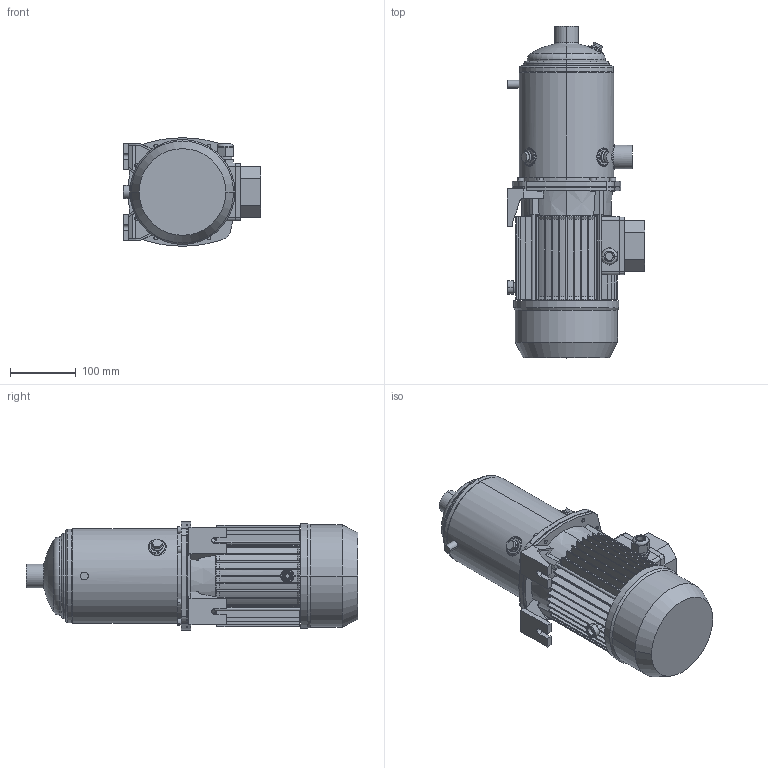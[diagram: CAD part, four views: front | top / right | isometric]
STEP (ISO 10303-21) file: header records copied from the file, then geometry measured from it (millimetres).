
FILE_DESCRIPTION((''),'2;1');
FILE_NAME('MATRIX_3-7T_1_3_IE3_ASM','2017-08-30T',('rosa'),('"Ebara Pumps Europe +39.444.706811"'),'PRO/ENGINEER BY PARAMETRIC TECHNOLOGY CORPORATION, 2012130','PRO/ENGINEER BY PARAMETRIC TECHNOLOGY CORPORATION, 2012130','');
FILE_SCHEMA(('AUTOMOTIVE_DESIGN { 1 0 10303 214 1 1 1 1 }'));
Length unit declared in the file: millimetre
Products named in the file (5): CORPO_POMPA_MATRIX_3-7; SUPPORTO_MATRIX_MEC_80; MEC_80X110_IE3; 72229; MATRIX_3-7T_1_3_IE3_ASM
Assembly tree (4 placements, depth 2):
  MATRIX_3-7T_1_3_IE3_ASM
    CORPO_POMPA_MATRIX_3-7
    SUPPORTO_MATRIX_MEC_80
    MEC_80X110_IE3
    72229
Bounding box: 209 x 503.8 x 165 mm (x, y, z)
Volume: 6337657.4 mm3; surface area: 560815.3 mm2
Topology: 4 solids, 4 shells, 721 faces, 1735 edges, 1071 vertices
Faces by surface type: plane 378, cylinder 188, cone 102, torus 37, bspline 14, sphere 2
Entity records: 28341 total; most frequent: CARTESIAN_POINT 5545, DIRECTION 3670, ORIENTED_EDGE 3470, EDGE_CURVE 1735, PRESENTATION_STYLE_ASSIGNMENT 1688, STYLED_ITEM 1688, CURVE_STYLE 1685, AXIS2_PLACEMENT_3D 1405
